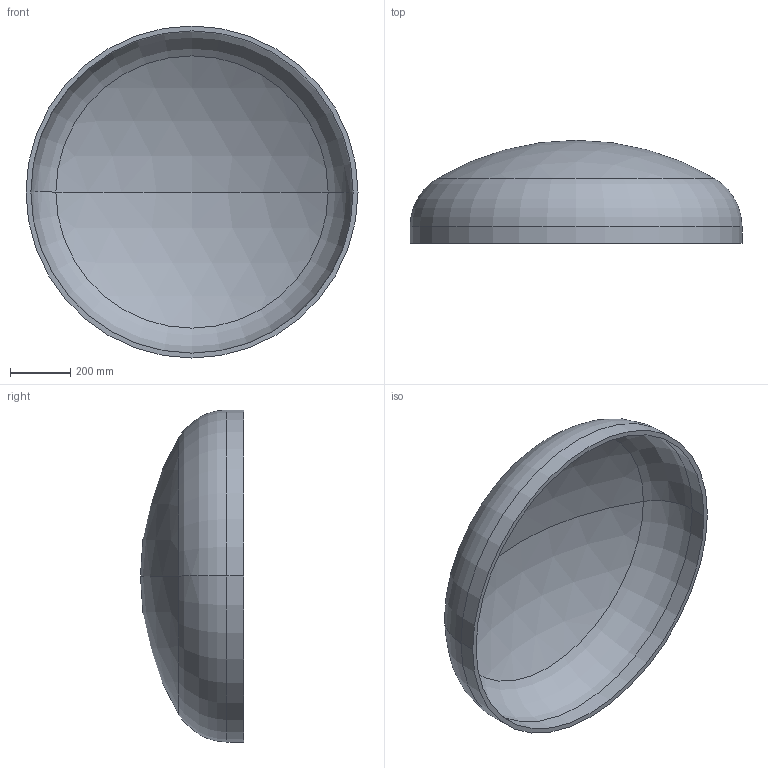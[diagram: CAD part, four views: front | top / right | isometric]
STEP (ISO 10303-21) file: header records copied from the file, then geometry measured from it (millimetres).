
FILE_DESCRIPTION (( 'STEP AP203' ), '1' );
FILE_NAME ('DIN 28013 Korbbogenform_-_Boden DIN 28013 - 1100 x 55 - I - s=16.step', '2016-07-01T09:02:12', ( '' ), ( '' ), 'SwSTEP 2.0', 'SolidWorks 2013', '' );
FILE_SCHEMA (( 'CONFIG_CONTROL_DESIGN' ));
Length unit declared in the file: millimetre
Products named in the file (1): DIN 28013 Korbbogenform_-_Boden DIN 28013 - 1100 x 55 - I - s=16
Bounding box: 1100 x 341.41 x 1100 mm (x, y, z)
Volume: 23669648.5 mm3; surface area: 3013729 mm2
Topology: 1 solids, 1 shells, 13 faces, 24 edges, 14 vertices
Faces by surface type: torus 4, cylinder 4, sphere 4, plane 1
Entity records: 407 total; most frequent: DIRECTION 72, CARTESIAN_POINT 52, ORIENTED_EDGE 48, AXIS2_PLACEMENT_3D 34, EDGE_CURVE 24, CIRCLE 20, EDGE_LOOP 14, VERTEX_POINT 14
